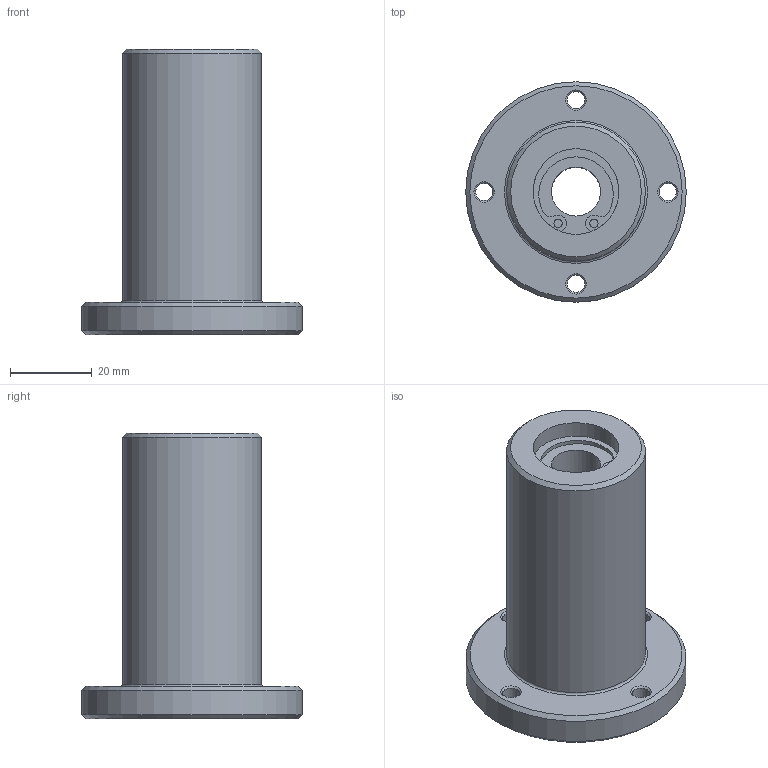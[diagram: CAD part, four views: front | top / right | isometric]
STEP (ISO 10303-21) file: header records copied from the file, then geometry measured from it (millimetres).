
FILE_DESCRIPTION(('STEP AP203'),'1');
FILE_NAME('//192.168.1.1/share/s-4 技術開発/s-4-4_CAD/s-4-4-3_見直し済み/009 修正済み/LCFD-A/LCFD-A_TOP/LCFD-12AVUU.step','2022-02-04T05:54:17',(' '),(' '),'Spatial InterOp 3D',' ',' ');
FILE_SCHEMA(('CONFIG_CONTROL_DESIGN'));
Length unit declared in the file: millimetre
Products named in the file (1): 1
Bounding box: 54 x 54 x 70 mm (x, y, z)
Volume: 63540.2 mm3; surface area: 15304.1 mm2
Topology: 1 solids, 1 shells, 56 faces, 132 edges, 86 vertices
Faces by surface type: cylinder 28, plane 16, cone 11, torus 1
Full cylindrical faces by diameter (mm): 2 x4, 4.2 x4, 12 x1, 21 x2, 34 x1, 36.3 x1, 54 x1
Entity records: 1500 total; most frequent: DIRECTION 282, CARTESIAN_POINT 233, ORIENTED_EDGE 196, AXIS2_PLACEMENT_3D 127, EDGE_LOOP 100, EDGE_CURVE 98, VERTEX_POINT 78, FACE_OUTER_BOUND 71
